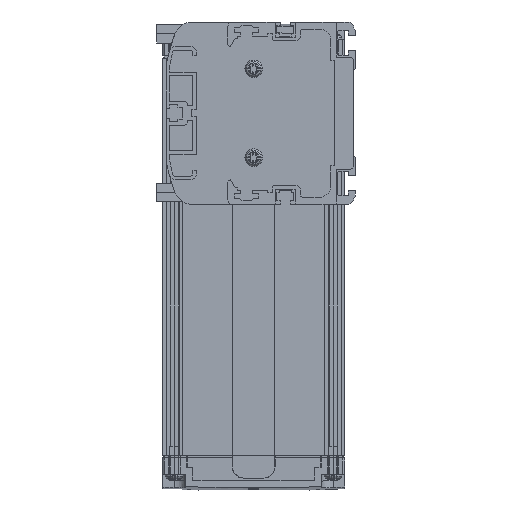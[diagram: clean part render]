
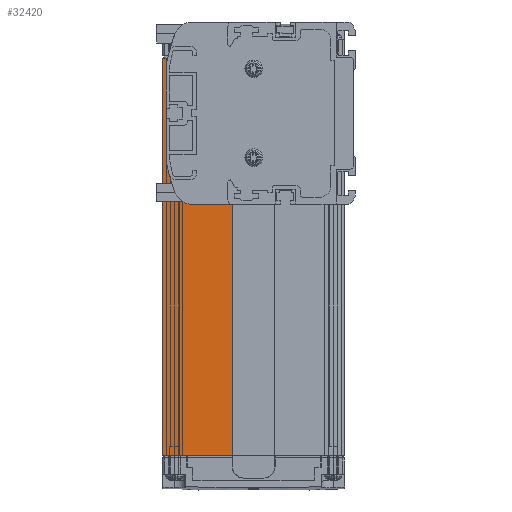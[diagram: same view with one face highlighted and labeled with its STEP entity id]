
A CAD part, left-side view. The second image highlights one B-rep face of the part: STEP entity #32420.
In plain terms, the highlighted planar face has unit normal (-1, 0, 0).
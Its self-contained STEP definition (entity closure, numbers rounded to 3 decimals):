
#5302=CARTESIAN_POINT('',(3.,79.,19.823));
#5303=DIRECTION('',(1.,0.,0.));
#5304=DIRECTION('',(0.,1.,0.));
#5305=AXIS2_PLACEMENT_3D('',#5302,#5303,#5304);
#5315=DIRECTION('',(0.,0.,1.));
#5316=VECTOR('',#5315,39.645);
#5317=CARTESIAN_POINT('',(3.,81.,-19.823));
#5318=LINE('',#5317,#5316);
#5355=CARTESIAN_POINT('',(3.,79.,-19.823));
#5356=DIRECTION('',(-1.,0.,0.));
#5357=DIRECTION('',(0.,1.,0.));
#5358=AXIS2_PLACEMENT_3D('',#5355,#5356,#5357);
#5364=CARTESIAN_POINT('',(3.,2.235,-6.));
#5365=DIRECTION('',(1.,0.,0.));
#5366=DIRECTION('',(0.,0.938,-0.347));
#5367=AXIS2_PLACEMENT_3D('',#5364,#5365,#5366);
#5699=CARTESIAN_POINT('',(3.,2.235,6.));
#5700=DIRECTION('',(1.,0.,0.));
#5701=DIRECTION('',(0.,0.984,0.177));
#5702=AXIS2_PLACEMENT_3D('',#5699,#5700,#5701);
#5717=DIRECTION('',(0.,-1.,0.));
#5718=VECTOR('',#5717,29.9);
#5719=CARTESIAN_POINT('',(3.,82.5,-146.5));
#5720=LINE('',#5719,#5718);
#5721=DIRECTION('',(0.,1.,0.));
#5722=VECTOR('',#5721,2.203);
#5723=CARTESIAN_POINT('',(3.,80.297,23.5));
#5724=LINE('',#5723,#5722);
#5725=DIRECTION('',(0.,-1.,0.));
#5726=VECTOR('',#5725,17.155);
#5727=CARTESIAN_POINT('',(3.,69.755,-39.));
#5728=LINE('',#5727,#5726);
#5763=CARTESIAN_POINT('',(3.,69.755,-31.));
#5764=DIRECTION('',(1.,0.,0.));
#5765=DIRECTION('',(0.,0.,-1.));
#5766=AXIS2_PLACEMENT_3D('',#5763,#5764,#5765);
#11600=DIRECTION('',(0.,0.,1.));
#11601=VECTOR('',#11600,170.);
#11602=CARTESIAN_POINT('',(3.,82.5,-146.5));
#11603=LINE('',#11602,#11601);
#13897=DIRECTION('',(0.,0.,1.));
#13898=VECTOR('',#13897,107.5);
#13899=CARTESIAN_POINT('',(3.,52.6,-146.5));
#13900=LINE('',#13899,#13898);
#19783=CARTESIAN_POINT('',(3.,82.5,23.5));
#19784=VERTEX_POINT('',#19783);
#19829=CARTESIAN_POINT('',(3.,82.5,-146.5));
#19830=VERTEX_POINT('',#19829);
#19831=CARTESIAN_POINT('',(3.,52.6,-146.5));
#19832=VERTEX_POINT('',#19831);
#24293=CARTESIAN_POINT('',(3.,69.755,-39.));
#24294=CARTESIAN_POINT('',(3.,52.6,-39.));
#24295=VERTEX_POINT('',#24293);
#24296=VERTEX_POINT('',#24294);
#24297=CARTESIAN_POINT('',(3.,80.297,23.5));
#24299=VERTEX_POINT('',#24297);
#24321=CARTESIAN_POINT('',(3.,81.,-19.823));
#24322=CARTESIAN_POINT('',(3.,80.968,-20.177));
#24323=VERTEX_POINT('',#24321);
#24324=VERTEX_POINT('',#24322);
#24325=CARTESIAN_POINT('',(3.,77.257,-33.778));
#24326=VERTEX_POINT('',#24325);
#24339=CARTESIAN_POINT('',(3.,80.968,20.177));
#24340=VERTEX_POINT('',#24339);
#24341=CARTESIAN_POINT('',(3.,81.,19.823));
#24342=VERTEX_POINT('',#24341);
#32396=CARTESIAN_POINT('',(3.,67.55,-61.5));
#32397=DIRECTION('',(1.,0.,0.));
#32398=DIRECTION('',(0.,1.,0.));
#32399=AXIS2_PLACEMENT_3D('',#32396,#32397,#32398);
#32400=PLANE('',#32399);
#32402=ORIENTED_EDGE('',*,*,#32401,.T.);
#32404=ORIENTED_EDGE('',*,*,#32403,.F.);
#32406=ORIENTED_EDGE('',*,*,#32405,.F.);
#32408=ORIENTED_EDGE('',*,*,#32407,.T.);
#32410=ORIENTED_EDGE('',*,*,#32409,.F.);
#32411=ORIENTED_EDGE('',*,*,#32380,.F.);
#32412=ORIENTED_EDGE('',*,*,#31812,.F.);
#32413=ORIENTED_EDGE('',*,*,#31827,.F.);
#32414=ORIENTED_EDGE('',*,*,#31866,.T.);
#32415=ORIENTED_EDGE('',*,*,#31883,.F.);
#32417=ORIENTED_EDGE('',*,*,#32416,.F.);
#32418=EDGE_LOOP('',(#32402,#32404,#32406,#32408,#32410,#32411,#32412,#32413,
#32414,#32415,#32417));
#32419=FACE_OUTER_BOUND('',#32418,.F.);
#32420=ADVANCED_FACE('',(#32419),#32400,.F.);
#5306=CIRCLE('',#5305,2.);
#5359=CIRCLE('',#5358,2.);
#5368=CIRCLE('',#5367,80.);
#5703=CIRCLE('',#5702,80.);
#5767=CIRCLE('',#5766,8.);
#31812=EDGE_CURVE('',#24342,#24340,#5306,.T.);
#31827=EDGE_CURVE('',#24323,#24342,#5318,.T.);
#31866=EDGE_CURVE('',#24323,#24324,#5359,.T.);
#31883=EDGE_CURVE('',#24326,#24324,#5368,.T.);
#32380=EDGE_CURVE('',#24340,#24299,#5703,.T.);
#32401=EDGE_CURVE('',#24295,#24296,#5728,.T.);
#32403=EDGE_CURVE('',#19832,#24296,#13900,.T.);
#32405=EDGE_CURVE('',#19830,#19832,#5720,.T.);
#32407=EDGE_CURVE('',#19830,#19784,#11603,.T.);
#32409=EDGE_CURVE('',#24299,#19784,#5724,.T.);
#32416=EDGE_CURVE('',#24295,#24326,#5767,.T.);
